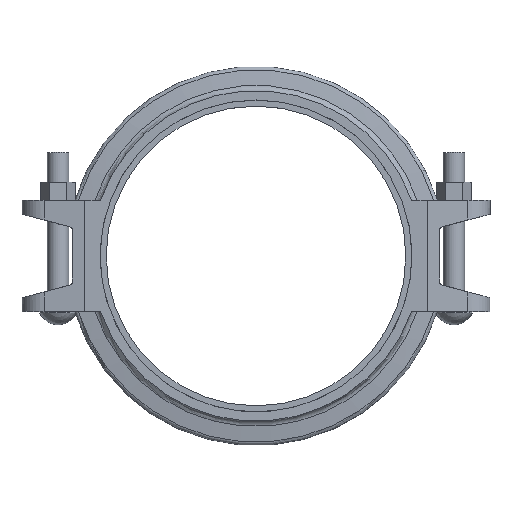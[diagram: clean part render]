
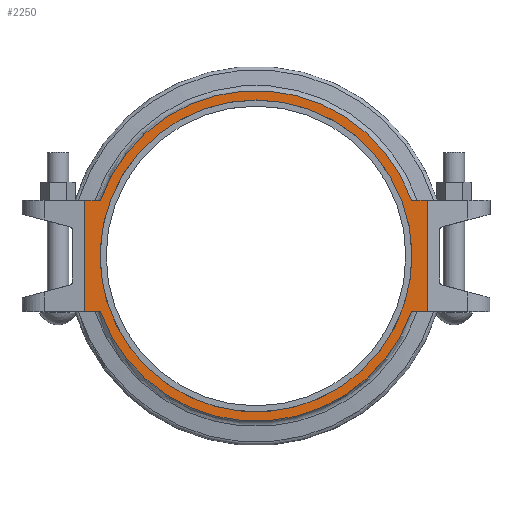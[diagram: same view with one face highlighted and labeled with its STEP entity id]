
A CAD part, top view. The second image highlights one B-rep face of the part: STEP entity #2250.
In plain terms, the highlighted planar face has unit normal (0, 0, 1).
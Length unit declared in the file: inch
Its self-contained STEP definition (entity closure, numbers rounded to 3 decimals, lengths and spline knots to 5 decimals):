
#112=FACE_BOUND('',#332,.T.);
#144=PLANE('',#2461);
#208=FACE_OUTER_BOUND('',#331,.T.);
#331=EDGE_LOOP('',(#1565,#1566,#1567,#1568,#1569,#1570,#1571,#1572));
#332=EDGE_LOOP('',(#1573,#1574));
#480=LINE('',#3467,#653);
#481=LINE('',#3469,#654);
#482=LINE('',#3471,#655);
#483=LINE('',#3475,#656);
#484=LINE('',#3477,#657);
#485=LINE('',#3478,#658);
#653=VECTOR('',#2831,0.3937);
#654=VECTOR('',#2832,0.3937);
#655=VECTOR('',#2833,0.3937);
#656=VECTOR('',#2836,0.3937);
#657=VECTOR('',#2837,0.3937);
#658=VECTOR('',#2838,0.3937);
#776=CIRCLE('',#2395,6.375);
#777=CIRCLE('',#2396,6.375);
#814=CIRCLE('',#2462,6.755);
#815=CIRCLE('',#2463,6.755);
#866=VERTEX_POINT('',#3271);
#867=VERTEX_POINT('',#3273);
#936=VERTEX_POINT('',#3463);
#937=VERTEX_POINT('',#3464);
#938=VERTEX_POINT('',#3466);
#939=VERTEX_POINT('',#3468);
#940=VERTEX_POINT('',#3470);
#941=VERTEX_POINT('',#3472);
#942=VERTEX_POINT('',#3474);
#943=VERTEX_POINT('',#3476);
#1090=EDGE_CURVE('',#867,#866,#776,.T.);
#1091=EDGE_CURVE('',#866,#867,#777,.T.);
#1182=EDGE_CURVE('',#936,#937,#814,.T.);
#1183=EDGE_CURVE('',#938,#936,#480,.T.);
#1184=EDGE_CURVE('',#938,#939,#481,.T.);
#1185=EDGE_CURVE('',#940,#939,#482,.T.);
#1186=EDGE_CURVE('',#941,#940,#815,.T.);
#1187=EDGE_CURVE('',#942,#941,#483,.T.);
#1188=EDGE_CURVE('',#943,#942,#484,.T.);
#1189=EDGE_CURVE('',#937,#943,#485,.T.);
#1565=ORIENTED_EDGE('',*,*,#1182,.F.);
#1566=ORIENTED_EDGE('',*,*,#1183,.F.);
#1567=ORIENTED_EDGE('',*,*,#1184,.T.);
#1568=ORIENTED_EDGE('',*,*,#1185,.F.);
#1569=ORIENTED_EDGE('',*,*,#1186,.F.);
#1570=ORIENTED_EDGE('',*,*,#1187,.F.);
#1571=ORIENTED_EDGE('',*,*,#1188,.F.);
#1572=ORIENTED_EDGE('',*,*,#1189,.F.);
#1573=ORIENTED_EDGE('',*,*,#1090,.T.);
#1574=ORIENTED_EDGE('',*,*,#1091,.T.);
#2250=ADVANCED_FACE('',(#208,#112),#144,.T.);
#2395=AXIS2_PLACEMENT_3D('',#3274,#2641,#2642);
#2396=AXIS2_PLACEMENT_3D('',#3275,#2643,#2644);
#2461=AXIS2_PLACEMENT_3D('',#3462,#2827,#2828);
#2462=AXIS2_PLACEMENT_3D('',#3465,#2829,#2830);
#2463=AXIS2_PLACEMENT_3D('',#3473,#2834,#2835);
#2641=DIRECTION('center_axis',(0.,0.,-1.));
#2642=DIRECTION('ref_axis',(1.,0.,0.));
#2643=DIRECTION('center_axis',(0.,0.,-1.));
#2644=DIRECTION('ref_axis',(1.,0.,0.));
#2827=DIRECTION('center_axis',(0.,0.,1.));
#2828=DIRECTION('ref_axis',(1.,0.,0.));
#2829=DIRECTION('center_axis',(0.,0.,-1.));
#2830=DIRECTION('ref_axis',(1.,0.,0.));
#2831=DIRECTION('',(1.,0.,0.));
#2832=DIRECTION('',(0.,-1.,0.));
#2833=DIRECTION('',(-1.,0.,0.));
#2834=DIRECTION('center_axis',(0.,0.,-1.));
#2835=DIRECTION('ref_axis',(1.,0.,0.));
#2836=DIRECTION('',(-1.,0.,0.));
#2837=DIRECTION('',(0.,-1.,0.));
#2838=DIRECTION('',(1.,0.,0.));
#3271=CARTESIAN_POINT('',(0.,-6.375,1.375));
#3273=CARTESIAN_POINT('',(-5.95716,-2.27,1.375));
#3274=CARTESIAN_POINT('Origin',(0.,0.,1.375));
#3275=CARTESIAN_POINT('Origin',(0.,0.,1.375));
#3462=CARTESIAN_POINT('Origin',(0.,6.755,1.375));
#3463=CARTESIAN_POINT('',(-6.36216,2.27,1.375));
#3464=CARTESIAN_POINT('',(6.36216,2.27,1.375));
#3465=CARTESIAN_POINT('Origin',(0.,0.,1.375));
#3466=CARTESIAN_POINT('',(-7.,2.27,1.375));
#3467=CARTESIAN_POINT('',(7.,2.27,1.375));
#3468=CARTESIAN_POINT('',(-7.,-2.27,1.375));
#3469=CARTESIAN_POINT('',(-7.,0.,1.375));
#3470=CARTESIAN_POINT('',(-6.36216,-2.27,1.375));
#3471=CARTESIAN_POINT('',(7.,-2.27,1.375));
#3472=CARTESIAN_POINT('',(6.36216,-2.27,1.375));
#3473=CARTESIAN_POINT('Origin',(0.,0.,1.375));
#3474=CARTESIAN_POINT('',(7.,-2.27,1.375));
#3475=CARTESIAN_POINT('',(7.,-2.27,1.375));
#3476=CARTESIAN_POINT('',(7.,2.27,1.375));
#3477=CARTESIAN_POINT('',(7.,0.,1.375));
#3478=CARTESIAN_POINT('',(7.,2.27,1.375));
